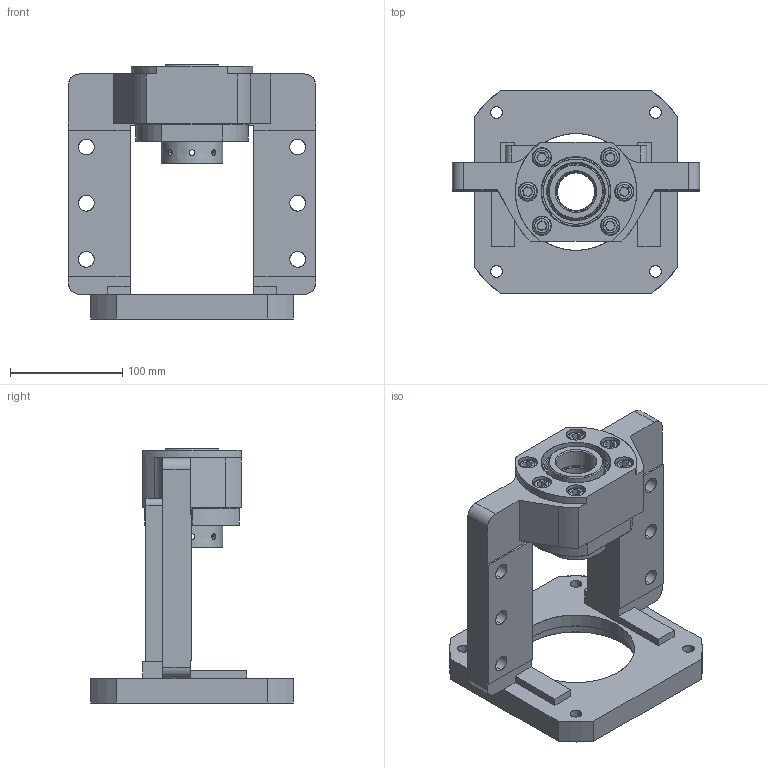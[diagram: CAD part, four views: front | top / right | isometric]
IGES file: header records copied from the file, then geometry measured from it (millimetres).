
Start section: SolidWorks IGES file using analytic representation for surfaces
Global section: file name: C:\Users\044\Desktop\快捷\MBCS35L-H.IGS,1; native system: 5HSolidWorks 2018; preprocessor: SolidWorks 2018; author: 044; date: 241018.144152; units: millimetre
Bounding box: 220 x 180 x 226 mm (x, y, z)
Surface area: 228761.8 mm2 (no closed solid volume)
Topology: 0 solids, 0 shells, 340 faces, 5952 edges, 5944 vertices
Faces by surface type: revolution 193, bspline 147
